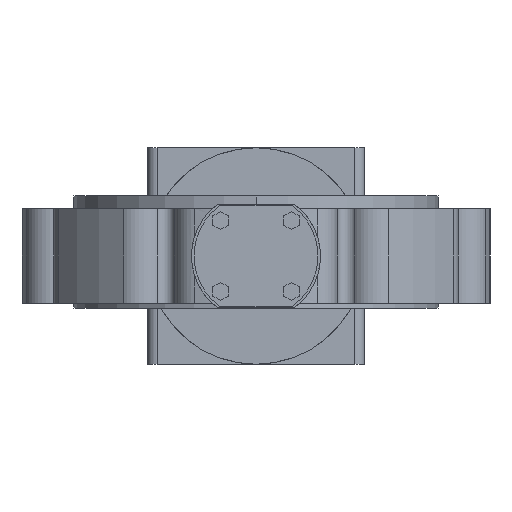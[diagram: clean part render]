
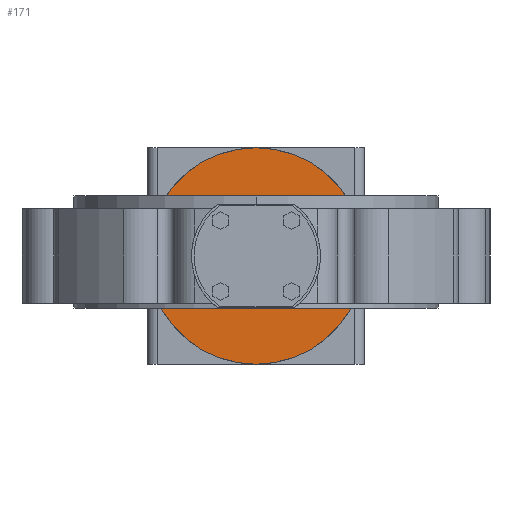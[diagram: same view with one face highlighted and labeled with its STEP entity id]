
A CAD part, front view. The second image highlights one B-rep face of the part: STEP entity #171.
In plain terms, the highlighted planar face has unit normal (0, -1, 0).
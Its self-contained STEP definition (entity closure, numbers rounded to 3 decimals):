
#171 = ADVANCED_FACE( '', ( #567, #568 ), #569, .T. );
#567 = FACE_OUTER_BOUND( '', #1199, .T. );
#568 = FACE_BOUND( '', #1200, .T. );
#569 = PLANE( '', #1201 );
#1199 = EDGE_LOOP( '', ( #2358, #2359 ) );
#1200 = EDGE_LOOP( '', ( #2360, #2361, #2362, #2363 ) );
#1201 = AXIS2_PLACEMENT_3D( '', #2364, #2365, #2366 );
#2358 = ORIENTED_EDGE( '', *, *, #4112, .F. );
#2359 = ORIENTED_EDGE( '', *, *, #4283, .F. );
#2360 = ORIENTED_EDGE( '', *, *, #4284, .T. );
#2361 = ORIENTED_EDGE( '', *, *, #4285, .T. );
#2362 = ORIENTED_EDGE( '', *, *, #4286, .T. );
#2363 = ORIENTED_EDGE( '', *, *, #4287, .T. );
#2364 = CARTESIAN_POINT( '', ( 65.5, 402., 0. ) );
#2365 = DIRECTION( '', ( 0., -1., 0. ) );
#2366 = DIRECTION( '', ( -1., 0., 0. ) );
#4112 = EDGE_CURVE( '', #4992, #4995, #4996, .T. );
#4283 = EDGE_CURVE( '', #4995, #4992, #5273, .T. );
#4284 = EDGE_CURVE( '', #5274, #5275, #5276, .T. );
#4285 = EDGE_CURVE( '', #5275, #5277, #5278, .T. );
#4286 = EDGE_CURVE( '', #5277, #5279, #5280, .T. );
#4287 = EDGE_CURVE( '', #5279, #5274, #5281, .T. );
#4992 = VERTEX_POINT( '', #6656 );
#4995 = VERTEX_POINT( '', #6660 );
#4996 = CIRCLE( '', #6661, 110. );
#5273 = CIRCLE( '', #7249, 110. );
#5274 = VERTEX_POINT( '', #7250 );
#5275 = VERTEX_POINT( '', #7251 );
#5276 = LINE( '', #7252, #7253 );
#5277 = VERTEX_POINT( '', #7254 );
#5278 = LINE( '', #7255, #7256 );
#5279 = VERTEX_POINT( '', #7257 );
#5280 = LINE( '', #7258, #7259 );
#5281 = LINE( '', #7260, #7261 );
#6656 = CARTESIAN_POINT( '', ( 110., 402., 0. ) );
#6660 = CARTESIAN_POINT( '', ( -110., 402., 0. ) );
#6661 = AXIS2_PLACEMENT_3D( '', #8590, #8591, #8592 );
#7249 = AXIS2_PLACEMENT_3D( '', #8922, #8923, #8924 );
#7250 = CARTESIAN_POINT( '', ( -51., 402., 42. ) );
#7251 = CARTESIAN_POINT( '', ( 51., 402., 42. ) );
#7252 = CARTESIAN_POINT( '', ( -51., 402., 42. ) );
#7253 = VECTOR( '', #8925, 1. );
#7254 = CARTESIAN_POINT( '', ( 51., 402., -42. ) );
#7255 = CARTESIAN_POINT( '', ( 51., 402., 42. ) );
#7256 = VECTOR( '', #8926, 1. );
#7257 = CARTESIAN_POINT( '', ( -51., 402., -42. ) );
#7258 = CARTESIAN_POINT( '', ( 51., 402., -42. ) );
#7259 = VECTOR( '', #8927, 1. );
#7260 = CARTESIAN_POINT( '', ( -51., 402., -42. ) );
#7261 = VECTOR( '', #8928, 1. );
#8590 = CARTESIAN_POINT( '', ( 0., 402., 0. ) );
#8591 = DIRECTION( '', ( 0., 1., 0. ) );
#8592 = DIRECTION( '', ( 1., 0., 0. ) );
#8922 = CARTESIAN_POINT( '', ( 0., 402., 0. ) );
#8923 = DIRECTION( '', ( 0., 1., 0. ) );
#8924 = DIRECTION( '', ( 1., 0., 0. ) );
#8925 = DIRECTION( '', ( 1., 0., 0. ) );
#8926 = DIRECTION( '', ( 0., 0., -1. ) );
#8927 = DIRECTION( '', ( -1., 0., 0. ) );
#8928 = DIRECTION( '', ( 0., 0., 1. ) );
